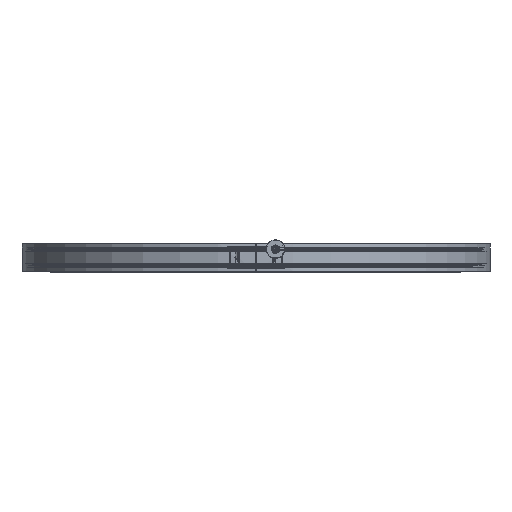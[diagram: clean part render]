
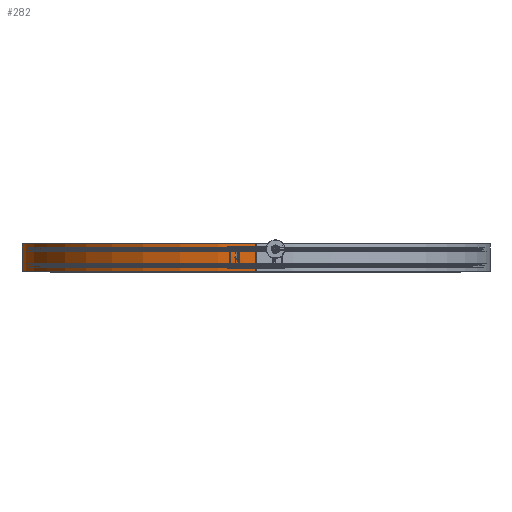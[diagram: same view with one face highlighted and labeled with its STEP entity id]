
A CAD part, top view. The second image highlights one B-rep face of the part: STEP entity #282.
In plain terms, the highlighted free-form (B-spline) face has degree [2, 1] with [9, 2] control points.
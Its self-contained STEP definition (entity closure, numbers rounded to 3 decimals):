
#169=FACE_BOUND('',#983,.T.);
#282=ADVANCED_FACE('',(#631,#169),#5306,.T.);
#631=FACE_OUTER_BOUND('',#982,.T.);
#982=EDGE_LOOP('',(#1680,#1681,#1682,#1683));
#983=EDGE_LOOP('',(#1684,#1685));
#1680=ORIENTED_EDGE('',*,*,#3209,.T.);
#1681=ORIENTED_EDGE('',*,*,#3208,.T.);
#1682=ORIENTED_EDGE('',*,*,#3205,.F.);
#1683=ORIENTED_EDGE('',*,*,#3154,.F.);
#1684=ORIENTED_EDGE('',*,*,#3206,.T.);
#1685=ORIENTED_EDGE('',*,*,#3207,.T.);
#3154=EDGE_CURVE('',#4787,#4783,#4236,.T.);
#3205=EDGE_CURVE('',#4783,#4796,#3935,.T.);
#3206=EDGE_CURVE('',#4744,#4745,#3936,.T.);
#3207=EDGE_CURVE('',#4745,#4744,#3937,.T.);
#3208=EDGE_CURVE('',#4830,#4796,#4286,.T.);
#3209=EDGE_CURVE('',#4787,#4830,#3938,.T.);
#3935=B_SPLINE_CURVE_WITH_KNOTS('',1,(#13345,#13346),.UNSPECIFIED.,.F.,
 .F.,(2,2),(0.,29.6),.UNSPECIFIED.);
#3936=B_SPLINE_CURVE_WITH_KNOTS('',3,(#13347,#13348,#13349,#13350,#13351,
#13352,#13353,#13354,#13355,#13356,#13357,#13358,#13359,#13360,#13361,#13362,
#13363,#13364,#13365,#13366,#13367,#13368,#13369,#13370,#13371,#13372,#13373,
#13374,#13375,#13376),.UNSPECIFIED.,.F.,.F.,(4,2,2,2,2,2,2,2,2,2,2,2,2,
2,4),(0.,0.335,0.669,1.004,1.339,
1.674,2.008,2.343,2.678,3.347,
4.017,4.351,4.686,5.021,5.356),
 .UNSPECIFIED.);
#3937=B_SPLINE_CURVE_WITH_KNOTS('',3,(#13377,#13378,#13379,#13380,#13381,
#13382,#13383,#13384,#13385,#13386,#13387,#13388,#13389,#13390,#13391,#13392,
#13393,#13394,#13395,#13396,#13397,#13398,#13399,#13400),.UNSPECIFIED.,
 .F.,.F.,(4,2,2,2,2,2,2,2,2,2,2,4),(0.,0.671,1.341,
1.677,2.012,2.683,3.018,3.353,
3.689,4.024,4.695,5.365),
 .UNSPECIFIED.);
#3938=B_SPLINE_CURVE_WITH_KNOTS('',1,(#13404,#13405),.UNSPECIFIED.,.F.,
 .F.,(2,2),(0.,29.6),.UNSPECIFIED.);
#4236=(
BOUNDED_CURVE()
B_SPLINE_CURVE(2,(#13165,#13166,#13167),.UNSPECIFIED.,.F.,.F.)
B_SPLINE_CURVE_WITH_KNOTS((3,3),(1177.591,1569.54),
 .UNSPECIFIED.)
CURVE()
GEOMETRIC_REPRESENTATION_ITEM()
RATIONAL_B_SPLINE_CURVE((1.,0.708,1.))
REPRESENTATION_ITEM('')
);
#4286=(
BOUNDED_CURVE()
B_SPLINE_CURVE(2,(#13401,#13402,#13403),.UNSPECIFIED.,.F.,.F.)
B_SPLINE_CURVE_WITH_KNOTS((3,3),(0.,392.263),.UNSPECIFIED.)
CURVE()
GEOMETRIC_REPRESENTATION_ITEM()
RATIONAL_B_SPLINE_CURVE((1.,0.708,1.))
REPRESENTATION_ITEM('')
);
#4744=VERTEX_POINT('',#12781);
#4745=VERTEX_POINT('',#12782);
#4783=VERTEX_POINT('',#12820);
#4787=VERTEX_POINT('',#12824);
#4796=VERTEX_POINT('',#12833);
#4830=VERTEX_POINT('',#12867);
#5306=(
BOUNDED_SURFACE()
B_SPLINE_SURFACE(2,1,((#10259,#10260),(#10261,#10262),(#10263,#10264),(#10265,
#10266),(#10267,#10268),(#10269,#10270),(#10271,#10272),(#10273,#10274),
(#10275,#10276)),.UNSPECIFIED.,.T.,.F.,.F.)
B_SPLINE_SURFACE_WITH_KNOTS((3,2,2,2,3),(2,2),(0.,392.699,785.398,
1178.097,1570.796),(0.,35.52),.UNSPECIFIED.)
GEOMETRIC_REPRESENTATION_ITEM()
RATIONAL_B_SPLINE_SURFACE(((1.,1.),(0.707,0.707),
(1.,1.),(0.707,0.707),(1.,1.),(0.707,
0.707),(1.,1.),(0.707,0.707),(1.,1.)))
REPRESENTATION_ITEM('')
SURFACE()
);
#10259=CARTESIAN_POINT('',(0.,-17.76,-250.));
#10260=CARTESIAN_POINT('',(0.,17.76,-250.));
#10261=CARTESIAN_POINT('',(-250.,-17.76,-250.));
#10262=CARTESIAN_POINT('',(-250.,17.76,-250.));
#10263=CARTESIAN_POINT('',(-250.,-17.76,0.));
#10264=CARTESIAN_POINT('',(-250.,17.76,0.));
#10265=CARTESIAN_POINT('',(-250.,-17.76,250.));
#10266=CARTESIAN_POINT('',(-250.,17.76,250.));
#10267=CARTESIAN_POINT('',(0.,-17.76,250.));
#10268=CARTESIAN_POINT('',(0.,17.76,250.));
#10269=CARTESIAN_POINT('',(250.,-17.76,250.));
#10270=CARTESIAN_POINT('',(250.,17.76,250.));
#10271=CARTESIAN_POINT('',(250.,-17.76,0.));
#10272=CARTESIAN_POINT('',(250.,17.76,0.));
#10273=CARTESIAN_POINT('',(250.,-17.76,-250.));
#10274=CARTESIAN_POINT('',(250.,17.76,-250.));
#10275=CARTESIAN_POINT('',(0.,-17.76,-250.));
#10276=CARTESIAN_POINT('',(0.,17.76,-250.));
#12781=CARTESIAN_POINT('',(-249.253,0.,19.306));
#12782=CARTESIAN_POINT('',(-248.968,0.,22.694));
#12820=CARTESIAN_POINT('',(0.,14.8,250.));
#12824=CARTESIAN_POINT('',(-250.,14.8,0.436));
#12833=CARTESIAN_POINT('',(0.,-14.8,250.));
#12867=CARTESIAN_POINT('',(-250.,-14.8,0.436));
#13165=CARTESIAN_POINT('',(-250.,14.8,0.436));
#13166=CARTESIAN_POINT('',(-249.564,14.8,250.));
#13167=CARTESIAN_POINT('',(0.,14.8,250.));
#13345=CARTESIAN_POINT('',(0.,14.8,250.));
#13346=CARTESIAN_POINT('',(0.,-14.8,250.));
#13347=CARTESIAN_POINT('',(-249.253,0.,19.306));
#13348=CARTESIAN_POINT('',(-249.253,0.111,19.306));
#13349=CARTESIAN_POINT('',(-249.253,0.224,19.317));
#13350=CARTESIAN_POINT('',(-249.249,0.441,19.36));
#13351=CARTESIAN_POINT('',(-249.247,0.547,19.392));
#13352=CARTESIAN_POINT('',(-249.24,0.753,19.477));
#13353=CARTESIAN_POINT('',(-249.236,0.853,19.53));
#13354=CARTESIAN_POINT('',(-249.226,1.037,19.653));
#13355=CARTESIAN_POINT('',(-249.221,1.123,19.723));
#13356=CARTESIAN_POINT('',(-249.208,1.282,19.881));
#13357=CARTESIAN_POINT('',(-249.201,1.352,19.967));
#13358=CARTESIAN_POINT('',(-249.187,1.475,20.151));
#13359=CARTESIAN_POINT('',(-249.179,1.528,20.25));
#13360=CARTESIAN_POINT('',(-249.162,1.613,20.455));
#13361=CARTESIAN_POINT('',(-249.153,1.646,20.561));
#13362=CARTESIAN_POINT('',(-249.135,1.689,20.778));
#13363=CARTESIAN_POINT('',(-249.126,1.7,20.89));
#13364=CARTESIAN_POINT('',(-249.098,1.7,21.222));
#13365=CARTESIAN_POINT('',(-249.079,1.655,21.444));
#13366=CARTESIAN_POINT('',(-249.043,1.486,21.852));
#13367=CARTESIAN_POINT('',(-249.027,1.359,22.041));
#13368=CARTESIAN_POINT('',(-249.006,1.124,22.276));
#13369=CARTESIAN_POINT('',(-248.999,1.036,22.347));
#13370=CARTESIAN_POINT('',(-248.988,0.852,22.47));
#13371=CARTESIAN_POINT('',(-248.983,0.754,22.522));
#13372=CARTESIAN_POINT('',(-248.976,0.548,22.607));
#13373=CARTESIAN_POINT('',(-248.973,0.44,22.64));
#13374=CARTESIAN_POINT('',(-248.969,0.223,22.683));
#13375=CARTESIAN_POINT('',(-248.968,0.112,22.694));
#13376=CARTESIAN_POINT('',(-248.968,0.,22.694));
#13377=CARTESIAN_POINT('',(-248.968,0.,22.694));
#13378=CARTESIAN_POINT('',(-248.968,-0.225,22.694));
#13379=CARTESIAN_POINT('',(-248.972,-0.448,22.649));
#13380=CARTESIAN_POINT('',(-248.987,-0.857,22.479));
#13381=CARTESIAN_POINT('',(-248.999,-1.046,22.353));
#13382=CARTESIAN_POINT('',(-249.02,-1.281,22.119));
#13383=CARTESIAN_POINT('',(-249.027,-1.353,22.031));
#13384=CARTESIAN_POINT('',(-249.044,-1.476,21.847));
#13385=CARTESIAN_POINT('',(-249.052,-1.528,21.75));
#13386=CARTESIAN_POINT('',(-249.079,-1.656,21.442));
#13387=CARTESIAN_POINT('',(-249.098,-1.7,21.222));
#13388=CARTESIAN_POINT('',(-249.126,-1.7,20.887));
#13389=CARTESIAN_POINT('',(-249.135,-1.689,20.777));
#13390=CARTESIAN_POINT('',(-249.153,-1.645,20.56));
#13391=CARTESIAN_POINT('',(-249.162,-1.613,20.453));
#13392=CARTESIAN_POINT('',(-249.179,-1.527,20.248));
#13393=CARTESIAN_POINT('',(-249.187,-1.475,20.151));
#13394=CARTESIAN_POINT('',(-249.201,-1.351,19.966));
#13395=CARTESIAN_POINT('',(-249.208,-1.28,19.879));
#13396=CARTESIAN_POINT('',(-249.227,-1.044,19.645));
#13397=CARTESIAN_POINT('',(-249.237,-0.855,19.519));
#13398=CARTESIAN_POINT('',(-249.25,-0.445,19.35));
#13399=CARTESIAN_POINT('',(-249.253,-0.222,19.306));
#13400=CARTESIAN_POINT('',(-249.253,0.,19.306));
#13401=CARTESIAN_POINT('',(-250.,-14.8,0.436));
#13402=CARTESIAN_POINT('',(-249.564,-14.8,250.));
#13403=CARTESIAN_POINT('',(0.,-14.8,250.));
#13404=CARTESIAN_POINT('',(-250.,14.8,0.436));
#13405=CARTESIAN_POINT('',(-250.,-14.8,0.436));
